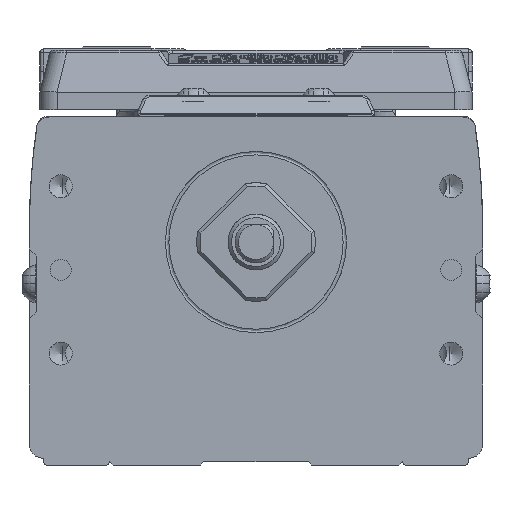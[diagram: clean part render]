
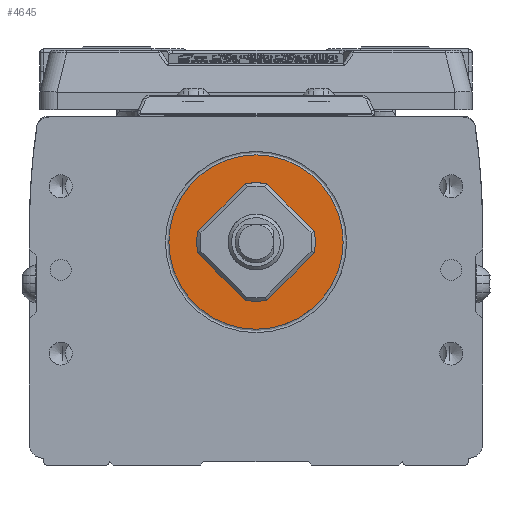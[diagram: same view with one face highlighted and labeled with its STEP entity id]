
A CAD part, left-side view. The second image highlights one B-rep face of the part: STEP entity #4645.
In plain terms, the highlighted planar face has unit normal (-1, 0, 0) as drawn and (0, 0, 1) by its records, which use the part's own axes.
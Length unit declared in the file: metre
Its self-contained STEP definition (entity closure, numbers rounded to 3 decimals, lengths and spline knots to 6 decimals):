
#4645=ADVANCED_FACE('',(#9302,#9303),#9304,.T.);
#9302=FACE_OUTER_BOUND('',#17503,.T.);
#9303=FACE_BOUND('',#17504,.T.);
#9304=PLANE('',#17505);
#17503=EDGE_LOOP('',(#29305));
#17504=EDGE_LOOP('',(#29306));
#17505=AXIS2_PLACEMENT_3D('',#29307,#29308,#29309);
#29305=ORIENTED_EDGE('',*,*,#33972,.T.);
#29306=ORIENTED_EDGE('',*,*,#34200,.F.);
#29307=CARTESIAN_POINT('',(0.000036,-0.0065,0.02));
#29308=DIRECTION('',(0.0,0.0,1.0));
#29309=DIRECTION('',(1.0,0.0,0.0));
#33972=EDGE_CURVE('',#40875,#40875,#40876,.T.);
#34200=EDGE_CURVE('',#41129,#41129,#41130,.T.);
#40875=VERTEX_POINT('',#51038);
#40876=CIRCLE('',#51039,0.0125);
#41129=VERTEX_POINT('',#51429);
#41130=CIRCLE('',#51430,0.004);
#51038=CARTESIAN_POINT('',(-0.0125,0.,0.02));
#51039=AXIS2_PLACEMENT_3D('',#56717,#56718,#56719);
#51429=CARTESIAN_POINT('',(0.004,0.0,0.02));
#51430=AXIS2_PLACEMENT_3D('',#56888,#56889,#56890);
#56717=CARTESIAN_POINT('',(0.0,0.,0.02));
#56718=DIRECTION('',(0.0,0.0,1.0));
#56719=DIRECTION('',(1.0,0.0,0.0));
#56888=CARTESIAN_POINT('',(0.0,0.0,0.02));
#56889=DIRECTION('',(0.0,0.0,1.0));
#56890=DIRECTION('',(-1.0,0.0,0.0));
